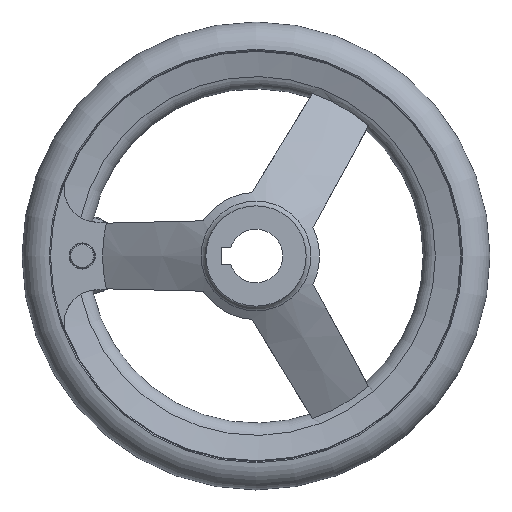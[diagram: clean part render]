
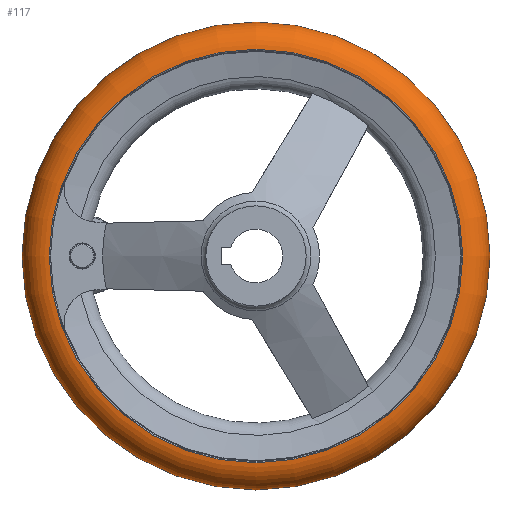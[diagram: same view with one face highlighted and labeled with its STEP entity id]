
A CAD part, left-side view. The second image highlights one B-rep face of the part: STEP entity #117.
In plain terms, the highlighted toroidal (fillet/blend) face has major radius 61.492 mm and minor radius 8.508 mm.
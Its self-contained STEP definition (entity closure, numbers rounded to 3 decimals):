
#117 = ADVANCED_FACE( '', ( #231, #232, #233 ), #234, .T. );
#231 = FACE_BOUND( '', #391, .T. );
#232 = FACE_OUTER_BOUND( '', #392, .T. );
#233 = FACE_OUTER_BOUND( '', #393, .T. );
#234 = TOROIDAL_SURFACE( '', #394, 61.492, 8.508 );
#391 = VERTEX_LOOP( '', #719 );
#392 = EDGE_LOOP( '', ( #720 ) );
#393 = EDGE_LOOP( '', ( #721 ) );
#394 = AXIS2_PLACEMENT_3D( '', #722, #723, #724 );
#719 = VERTEX_POINT( '', #876 );
#720 = ORIENTED_EDGE( '', *, *, #877, .T. );
#721 = ORIENTED_EDGE( '', *, *, #854, .F. );
#722 = CARTESIAN_POINT( '', ( 30.5, 0., 0. ) );
#723 = DIRECTION( '', ( 1., 0., 0. ) );
#724 = DIRECTION( '', ( 0., 1., 0. ) );
#854 = EDGE_CURVE( '', #1029, #1029, #1030, .T. );
#876 = CARTESIAN_POINT( '', ( 30.5, 70., 0. ) );
#877 = EDGE_CURVE( '', #1061, #1061, #1062, .T. );
#1029 = VERTEX_POINT( '', #1591 );
#1030 = CIRCLE( '', #1592, 61.854 );
#1061 = VERTEX_POINT( '', #1653 );
#1062 = CIRCLE( '', #1654, 61.854 );
#1591 = CARTESIAN_POINT( '', ( 39., 61.854, 0. ) );
#1592 = AXIS2_PLACEMENT_3D( '', #1790, #1791, #1792 );
#1653 = CARTESIAN_POINT( '', ( 22., 61.854, 0. ) );
#1654 = AXIS2_PLACEMENT_3D( '', #1827, #1828, #1829 );
#1790 = CARTESIAN_POINT( '', ( 39., 0., 0. ) );
#1791 = DIRECTION( '', ( 1., 0., 0. ) );
#1792 = DIRECTION( '', ( 0., 1., 0. ) );
#1827 = CARTESIAN_POINT( '', ( 22., 0., 0. ) );
#1828 = DIRECTION( '', ( 1., 0., 0. ) );
#1829 = DIRECTION( '', ( 0., 1., 0. ) );
